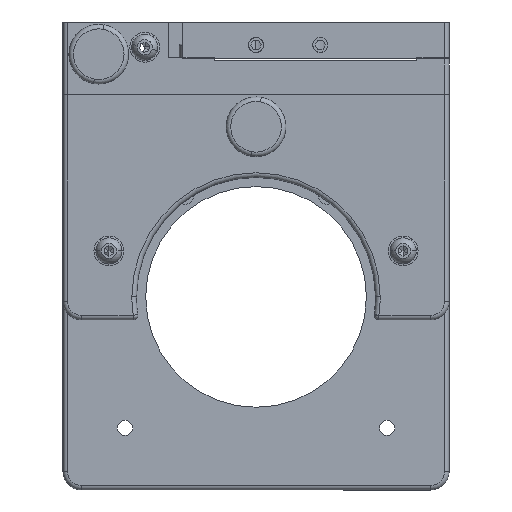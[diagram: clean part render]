
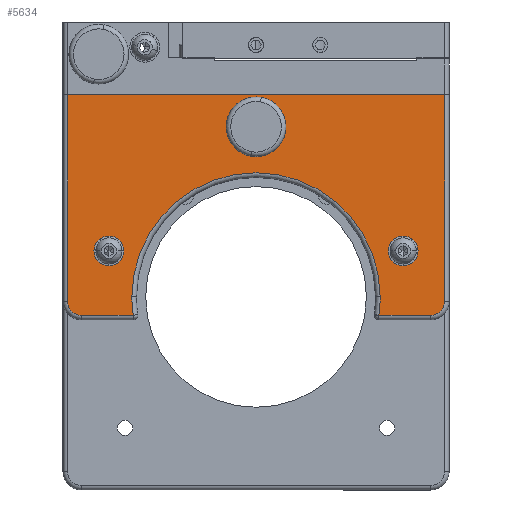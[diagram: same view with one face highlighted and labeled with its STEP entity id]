
A CAD part, front view. The second image highlights one B-rep face of the part: STEP entity #5634.
In plain terms, the highlighted planar face has unit normal (0, -1, 0).
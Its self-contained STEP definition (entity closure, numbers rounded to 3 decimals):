
#131 = ORIENTED_EDGE ( 'NONE', *, *, #2641, .T. ) ;
#212 = CIRCLE ( 'NONE', #792, 27. ) ;
#318 = CARTESIAN_POINT ( 'NONE',  ( 39.931, -11.905, -55.393 ) ) ;
#379 = EDGE_CURVE ( 'NONE', #2938, #4257, #2687, .T. ) ;
#390 = DIRECTION ( 'NONE',  ( 0., 1., 0. ) ) ;
#476 = EDGE_CURVE ( 'NONE', #5747, #1355, #2569, .T. ) ;
#514 = VERTEX_POINT ( 'NONE', #7884 ) ;
#523 = VERTEX_POINT ( 'NONE', #7327 ) ;
#526 = EDGE_CURVE ( 'NONE', #523, #514, #1149, .T. ) ;
#540 = EDGE_CURVE ( 'NONE', #3464, #1807, #2454, .T. ) ;
#584 = ORIENTED_EDGE ( 'NONE', *, *, #3665, .T. ) ;
#598 = ORIENTED_EDGE ( 'NONE', *, *, #7661, .T. ) ;
#664 = VERTEX_POINT ( 'NONE', #10278 ) ;
#726 = ORIENTED_EDGE ( 'NONE', *, *, #379, .T. ) ;
#792 = AXIS2_PLACEMENT_3D ( 'NONE', #10067, #10161, #10148 ) ;
#818 = ORIENTED_EDGE ( 'NONE', *, *, #540, .T. ) ;
#838 = ORIENTED_EDGE ( 'NONE', *, *, #9457, .T. ) ;
#842 = DIRECTION ( 'NONE',  ( -1., 0., 0. ) ) ;
#855 = DIRECTION ( 'NONE',  ( 0., 1., 0. ) ) ;
#859 = CARTESIAN_POINT ( 'NONE',  ( -1.069, -11.905, -54.393 ) ) ;
#948 = AXIS2_PLACEMENT_3D ( 'NONE', #6623, #6624, #6648 ) ;
#1025 = VERTEX_POINT ( 'NONE', #9351 ) ;
#1029 = DIRECTION ( 'NONE',  ( 1., 0., 0. ) ) ;
#1031 = CARTESIAN_POINT ( 'NONE',  ( 36.931, -11.905, -58.393 ) ) ;
#1099 = ORIENTED_EDGE ( 'NONE', *, *, #2487, .T. ) ;
#1146 = ORIENTED_EDGE ( 'NONE', *, *, #6807, .F. ) ;
#1149 = CIRCLE ( 'NONE', #9712, 3.25 ) ;
#1218 = DIRECTION ( 'NONE',  ( -1., 0., 0. ) ) ;
#1320 = FACE_OUTER_BOUND ( 'NONE', #4777, .T. ) ;
#1329 = FACE_BOUND ( 'NONE', #4590, .T. ) ;
#1340 = FACE_BOUND ( 'NONE', #10304, .T. ) ;
#1355 = VERTEX_POINT ( 'NONE', #2231 ) ;
#1432 = ORIENTED_EDGE ( 'NONE', *, *, #8030, .F. ) ;
#1443 = FACE_BOUND ( 'NONE', #4467, .T. ) ;
#1567 = AXIS2_PLACEMENT_3D ( 'NONE', #859, #855, #842 ) ;
#1629 = DIRECTION ( 'NONE',  ( 0., -1., 0. ) ) ;
#1759 = CARTESIAN_POINT ( 'NONE',  ( -1.069, -11.905, -17.393 ) ) ;
#1807 = VERTEX_POINT ( 'NONE', #6920 ) ;
#1832 = EDGE_CURVE ( 'NONE', #1355, #3464, #4012, .T. ) ;
#1867 = CARTESIAN_POINT ( 'NONE',  ( 25.633, -11.905, -58.393 ) ) ;
#1884 = CARTESIAN_POINT ( 'NONE',  ( -1.069, -11.905, -54.393 ) ) ;
#1937 = CARTESIAN_POINT ( 'NONE',  ( -33.069, -11.905, -44.393 ) ) ;
#1945 = CARTESIAN_POINT ( 'NONE',  ( -5.569, -11.905, -17.393 ) ) ;
#1946 = DIRECTION ( 'NONE',  ( 0., -1., 0. ) ) ;
#1949 = DIRECTION ( 'NONE',  ( -1., 0., 0. ) ) ;
#2231 = CARTESIAN_POINT ( 'NONE',  ( -42.069, -11.905, -55.393 ) ) ;
#2390 = VERTEX_POINT ( 'NONE', #1945 ) ;
#2438 = VECTOR ( 'NONE', #7917, 1000. ) ;
#2454 = LINE ( 'NONE', #6463, #2438 ) ;
#2461 = CARTESIAN_POINT ( 'NONE',  ( 40.931, -11.905, -10.393 ) ) ;
#2482 = DIRECTION ( 'NONE',  ( -1., 0., 0. ) ) ;
#2487 = EDGE_CURVE ( 'NONE', #4257, #5747, #7755, .T. ) ;
#2539 = VECTOR ( 'NONE', #6527, 1000. ) ;
#2569 = LINE ( 'NONE', #7494, #2539 ) ;
#2641 = EDGE_CURVE ( 'NONE', #4691, #1025, #7166, .T. ) ;
#2687 = LINE ( 'NONE', #7185, #2805 ) ;
#2773 = CARTESIAN_POINT ( 'NONE',  ( 3.431, -11.905, -17.393 ) ) ;
#2805 = VECTOR ( 'NONE', #7209, 1000. ) ;
#2938 = VERTEX_POINT ( 'NONE', #318 ) ;
#3207 = CARTESIAN_POINT ( 'NONE',  ( -1.069, -11.905, -59.393 ) ) ;
#3464 = VERTEX_POINT ( 'NONE', #10030 ) ;
#3497 = AXIS2_PLACEMENT_3D ( 'NONE', #8601, #8605, #8643 ) ;
#3549 = CIRCLE ( 'NONE', #3497, 4.5 ) ;
#3651 = CARTESIAN_POINT ( 'NONE',  ( -42.069, -11.905, -10.393 ) ) ;
#3665 = EDGE_CURVE ( 'NONE', #664, #4691, #212, .T. ) ;
#4012 = CIRCLE ( 'NONE', #4344, 3. ) ;
#4154 = CIRCLE ( 'NONE', #7457, 3.25 ) ;
#4246 = VERTEX_POINT ( 'NONE', #4812 ) ;
#4257 = VERTEX_POINT ( 'NONE', #5041 ) ;
#4344 = AXIS2_PLACEMENT_3D ( 'NONE', #6582, #6564, #6553 ) ;
#4467 = EDGE_LOOP ( 'NONE', ( #8674, #8599 ) ) ;
#4590 = EDGE_LOOP ( 'NONE', ( #6408, #8083 ) ) ;
#4664 = AXIS2_PLACEMENT_3D ( 'NONE', #1759, #1629, #1218 ) ;
#4691 = VERTEX_POINT ( 'NONE', #1867 ) ;
#4735 = DIRECTION ( 'NONE',  ( -1., 0., 0. ) ) ;
#4777 = EDGE_LOOP ( 'NONE', ( #1099, #6945, #8419, #818, #598, #8325, #584, #131, #838, #726 ) ) ;
#4785 = CARTESIAN_POINT ( 'NONE',  ( 36.931, -11.905, -55.393 ) ) ;
#4796 = DIRECTION ( 'NONE',  ( 0., -1., 0. ) ) ;
#4800 = DIRECTION ( 'NONE',  ( -1., 0., 0. ) ) ;
#4812 = CARTESIAN_POINT ( 'NONE',  ( -28.069, -11.905, -54.393 ) ) ;
#5041 = CARTESIAN_POINT ( 'NONE',  ( 39.931, -11.905, -10.393 ) ) ;
#5244 = AXIS2_PLACEMENT_3D ( 'NONE', #4785, #4796, #4800 ) ;
#5634 = ADVANCED_FACE ( 'NONE', ( #1320, #1329, #1443, #1340 ), #7226, .T. ) ;
#5675 = DIRECTION ( 'NONE',  ( -1., 0., 0. ) ) ;
#5688 = CIRCLE ( 'NONE', #948, 3.25 ) ;
#5747 = VERTEX_POINT ( 'NONE', #3651 ) ;
#5948 = EDGE_CURVE ( 'NONE', #4246, #664, #6265, .T. ) ;
#6265 = CIRCLE ( 'NONE', #7772, 27. ) ;
#6279 = DIRECTION ( 'NONE',  ( 0., -1., 0. ) ) ;
#6405 = EDGE_CURVE ( 'NONE', #10062, #10325, #8270, .T. ) ;
#6408 = ORIENTED_EDGE ( 'NONE', *, *, #9762, .F. ) ;
#6412 = DIRECTION ( 'NONE',  ( -1., 0., 0. ) ) ;
#6427 = CARTESIAN_POINT ( 'NONE',  ( -33.069, -11.905, -44.393 ) ) ;
#6450 = DIRECTION ( 'NONE',  ( 0., -1., 0. ) ) ;
#6453 = DIRECTION ( 'NONE',  ( 0., -1., 0. ) ) ;
#6463 = CARTESIAN_POINT ( 'NONE',  ( -26.584, -11.905, -58.393 ) ) ;
#6464 = DIRECTION ( 'NONE',  ( -1., 0., 0. ) ) ;
#6468 = CARTESIAN_POINT ( 'NONE',  ( 30.931, -11.905, -44.393 ) ) ;
#6527 = DIRECTION ( 'NONE',  ( 0., 0., -1. ) ) ;
#6553 = DIRECTION ( 'NONE',  ( -1., 0., 0. ) ) ;
#6564 = DIRECTION ( 'NONE',  ( 0., -1., 0. ) ) ;
#6582 = CARTESIAN_POINT ( 'NONE',  ( -39.069, -11.905, -55.393 ) ) ;
#6623 = CARTESIAN_POINT ( 'NONE',  ( 30.931, -11.905, -44.393 ) ) ;
#6624 = DIRECTION ( 'NONE',  ( 0., -1., 0. ) ) ;
#6648 = DIRECTION ( 'NONE',  ( -1., 0., 0. ) ) ;
#6807 = EDGE_CURVE ( 'NONE', #8790, #2390, #3549, .T. ) ;
#6920 = CARTESIAN_POINT ( 'NONE',  ( -27.771, -11.905, -58.393 ) ) ;
#6945 = ORIENTED_EDGE ( 'NONE', *, *, #476, .T. ) ;
#7166 = LINE ( 'NONE', #1031, #7300 ) ;
#7185 = CARTESIAN_POINT ( 'NONE',  ( 39.931, -11.905, -10.393 ) ) ;
#7209 = DIRECTION ( 'NONE',  ( 0., 0., 1. ) ) ;
#7226 = PLANE ( 'NONE',  #8477 ) ;
#7300 = VECTOR ( 'NONE', #1029, 1000. ) ;
#7327 = CARTESIAN_POINT ( 'NONE',  ( 34.181, -11.905, -44.393 ) ) ;
#7457 = AXIS2_PLACEMENT_3D ( 'NONE', #6427, #6453, #6464 ) ;
#7494 = CARTESIAN_POINT ( 'NONE',  ( -42.069, -11.905, -55.393 ) ) ;
#7661 = EDGE_CURVE ( 'NONE', #1807, #4246, #9615, .T. ) ;
#7722 = VECTOR ( 'NONE', #2482, 1000. ) ;
#7755 = LINE ( 'NONE', #2461, #7722 ) ;
#7772 = AXIS2_PLACEMENT_3D ( 'NONE', #1884, #390, #5675 ) ;
#7799 = AXIS2_PLACEMENT_3D ( 'NONE', #1937, #1946, #1949 ) ;
#7884 = CARTESIAN_POINT ( 'NONE',  ( 27.681, -11.905, -44.393 ) ) ;
#7897 = CIRCLE ( 'NONE', #5244, 3. ) ;
#7917 = DIRECTION ( 'NONE',  ( 1., 0., 0. ) ) ;
#8030 = EDGE_CURVE ( 'NONE', #2390, #8790, #8935, .T. ) ;
#8083 = ORIENTED_EDGE ( 'NONE', *, *, #526, .F. ) ;
#8270 = CIRCLE ( 'NONE', #7799, 3.25 ) ;
#8325 = ORIENTED_EDGE ( 'NONE', *, *, #5948, .T. ) ;
#8419 = ORIENTED_EDGE ( 'NONE', *, *, #1832, .T. ) ;
#8477 = AXIS2_PLACEMENT_3D ( 'NONE', #3207, #6279, #4735 ) ;
#8599 = ORIENTED_EDGE ( 'NONE', *, *, #6405, .F. ) ;
#8601 = CARTESIAN_POINT ( 'NONE',  ( -1.069, -11.905, -17.393 ) ) ;
#8605 = DIRECTION ( 'NONE',  ( 0., -1., 0. ) ) ;
#8643 = DIRECTION ( 'NONE',  ( -1., 0., 0. ) ) ;
#8674 = ORIENTED_EDGE ( 'NONE', *, *, #9727, .F. ) ;
#8790 = VERTEX_POINT ( 'NONE', #2773 ) ;
#8819 = CARTESIAN_POINT ( 'NONE',  ( -29.819, -11.905, -44.393 ) ) ;
#8935 = CIRCLE ( 'NONE', #4664, 4.5 ) ;
#9351 = CARTESIAN_POINT ( 'NONE',  ( 36.931, -11.905, -58.393 ) ) ;
#9457 = EDGE_CURVE ( 'NONE', #1025, #2938, #7897, .T. ) ;
#9615 = CIRCLE ( 'NONE', #1567, 27. ) ;
#9712 = AXIS2_PLACEMENT_3D ( 'NONE', #6468, #6450, #6412 ) ;
#9727 = EDGE_CURVE ( 'NONE', #10325, #10062, #4154, .T. ) ;
#9762 = EDGE_CURVE ( 'NONE', #514, #523, #5688, .T. ) ;
#9968 = CARTESIAN_POINT ( 'NONE',  ( -36.319, -11.905, -44.393 ) ) ;
#10030 = CARTESIAN_POINT ( 'NONE',  ( -39.069, -11.905, -58.393 ) ) ;
#10062 = VERTEX_POINT ( 'NONE', #8819 ) ;
#10067 = CARTESIAN_POINT ( 'NONE',  ( -1.069, -11.905, -54.393 ) ) ;
#10148 = DIRECTION ( 'NONE',  ( -1., 0., 0. ) ) ;
#10161 = DIRECTION ( 'NONE',  ( 0., 1., 0. ) ) ;
#10278 = CARTESIAN_POINT ( 'NONE',  ( 25.931, -11.905, -54.393 ) ) ;
#10304 = EDGE_LOOP ( 'NONE', ( #1432, #1146 ) ) ;
#10325 = VERTEX_POINT ( 'NONE', #9968 ) ;
